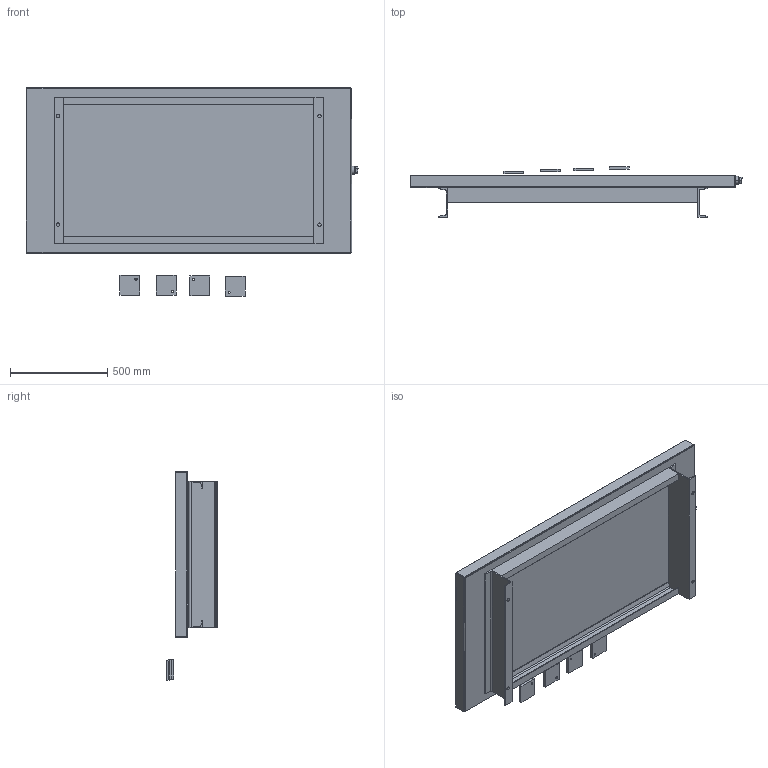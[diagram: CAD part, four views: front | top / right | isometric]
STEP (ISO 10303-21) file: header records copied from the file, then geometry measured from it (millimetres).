
FILE_DESCRIPTION (( 'STEP AP214' ), '1' );
FILE_NAME ('TDP-80.STEP', '2026-04-22T11:07:18', ( '' ), ( '' ), 'SwSTEP 2.0', 'SolidWorks 2026', '' );
FILE_SCHEMA (( 'AUTOMOTIVE_DESIGN' ));
Length unit declared in the file: inch
Products named in the file (7): TDP-80; C3-TDP-80_Default<As Welded>; C6-TDP-80_Default<As Welded>; TDP-PAD; #12 SAE PLUG; #12 SAE DRAIN
Assembly tree (11 placements, depth 2):
  TDP-80
    TDP-80
    C6-TDP-80_Default<As Welded>  x2
    C3-TDP-80_Default<As Welded>  x2
    #12 SAE DRAIN
    #12 SAE PLUG
    TDP-PAD  x4
Bounding box: 1709.74 x 261.92 x 1073.24 mm (x, y, z)
Volume: 11397319.6 mm3; surface area: 5005921.7 mm2
Topology: 11 solids, 11 shells, 163 faces, 378 edges, 240 vertices
Faces by surface type: plane 99, cylinder 50, bspline 8, cone 6
Entity records: 3752 total; most frequent: CARTESIAN_POINT 1105, DIRECTION 498, ORIENTED_EDGE 480, EDGE_CURVE 240, VECTOR 168, LINE 168, AXIS2_PLACEMENT_3D 165, VERTEX_POINT 148
